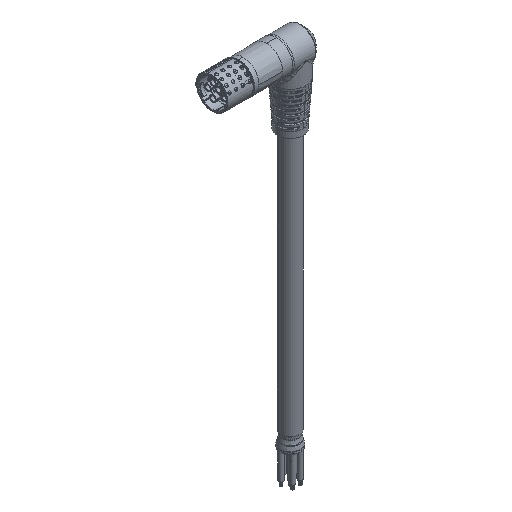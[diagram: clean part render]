
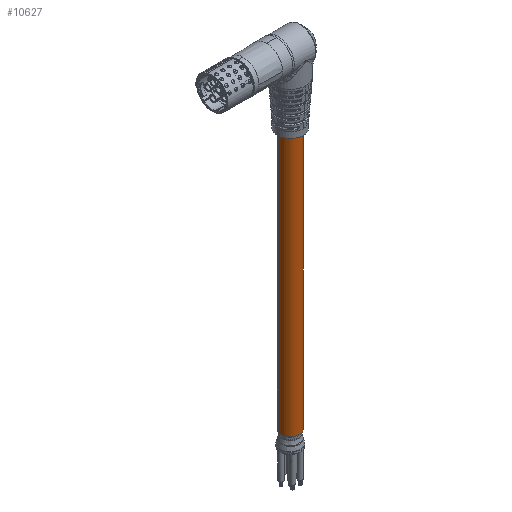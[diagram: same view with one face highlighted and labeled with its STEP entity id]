
A CAD part, isometric view. The second image highlights one B-rep face of the part: STEP entity #10627.
In plain terms, the highlighted cylindrical face has radius 6.06 mm (diameter 12.12 mm), a partial arc.
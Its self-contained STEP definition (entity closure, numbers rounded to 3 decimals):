
#1724 = CARTESIAN_POINT ( 'NONE',  ( -39.58, 3.279, -34.562 ) ) ;
#5749 = AXIS2_PLACEMENT_3D ( 'NONE', #88333, #12549, #46229 ) ;
#5928 = VECTOR ( 'NONE', #53253, 1000. ) ;
#9787 = CARTESIAN_POINT ( 'NONE',  ( -39.58, 3.279, -221.325 ) ) ;
#10321 = FACE_OUTER_BOUND ( 'NONE', #103944, .T. ) ;
#10627 = ADVANCED_FACE ( 'NONE', ( #10321 ), #103271, .T. ) ;
#12549 = DIRECTION ( 'NONE',  ( 0., 0., -1. ) ) ;
#13871 = DIRECTION ( 'NONE',  ( 0., 0., -1. ) ) ;
#16731 = VERTEX_POINT ( 'NONE', #81119 ) ;
#20671 = LINE ( 'NONE', #37767, #5928 ) ;
#24409 = EDGE_CURVE ( 'NONE', #77620, #82977, #91804, .T. ) ;
#25636 = CARTESIAN_POINT ( 'NONE',  ( -50.776, 7.922, -34.562 ) ) ;
#36504 = EDGE_CURVE ( 'NONE', #77620, #54745, #101575, .T. ) ;
#37767 = CARTESIAN_POINT ( 'NONE',  ( -50.776, 7.922, -17.422 ) ) ;
#37899 = VECTOR ( 'NONE', #67742, 1000. ) ;
#41039 = DIRECTION ( 'NONE',  ( 0.924, -0.383, 0. ) ) ;
#41573 = CARTESIAN_POINT ( 'NONE',  ( -45.178, 5.601, -221.325 ) ) ;
#42338 = CARTESIAN_POINT ( 'NONE',  ( -39.58, 3.279, -17.422 ) ) ;
#43861 = ORIENTED_EDGE ( 'NONE', *, *, #36504, .F. ) ;
#44631 = EDGE_CURVE ( 'NONE', #54745, #16731, #108240, .T. ) ;
#46229 = DIRECTION ( 'NONE',  ( 0.924, -0.383, 0. ) ) ;
#53253 = DIRECTION ( 'NONE',  ( 0., 0., -1. ) ) ;
#54745 = VERTEX_POINT ( 'NONE', #9787 ) ;
#58433 = ORIENTED_EDGE ( 'NONE', *, *, #44631, .F. ) ;
#67742 = DIRECTION ( 'NONE',  ( 0., 0., -1. ) ) ;
#68513 = ORIENTED_EDGE ( 'NONE', *, *, #24409, .T. ) ;
#73540 = CARTESIAN_POINT ( 'NONE',  ( -45.178, 5.601, -34.562 ) ) ;
#77620 = VERTEX_POINT ( 'NONE', #1724 ) ;
#81046 = DIRECTION ( 'NONE',  ( 0., 0., -1. ) ) ;
#81119 = CARTESIAN_POINT ( 'NONE',  ( -50.776, 7.922, -221.325 ) ) ;
#82977 = VERTEX_POINT ( 'NONE', #25636 ) ;
#88333 = CARTESIAN_POINT ( 'NONE',  ( -45.178, 5.601, -17.422 ) ) ;
#88771 = AXIS2_PLACEMENT_3D ( 'NONE', #41573, #81046, #41039 ) ;
#91804 = CIRCLE ( 'NONE', #95287, 6.06 ) ;
#93937 = EDGE_CURVE ( 'NONE', #82977, #16731, #20671, .T. ) ;
#94602 = ORIENTED_EDGE ( 'NONE', *, *, #93937, .T. ) ;
#95287 = AXIS2_PLACEMENT_3D ( 'NONE', #73540, #13871, #99589 ) ;
#99589 = DIRECTION ( 'NONE',  ( -0.924, 0.383, 0. ) ) ;
#101575 = LINE ( 'NONE', #42338, #37899 ) ;
#103271 = CYLINDRICAL_SURFACE ( 'NONE', #5749, 6.06 ) ;
#103944 = EDGE_LOOP ( 'NONE', ( #68513, #94602, #58433, #43861 ) ) ;
#108240 = CIRCLE ( 'NONE', #88771, 6.06 ) ;
